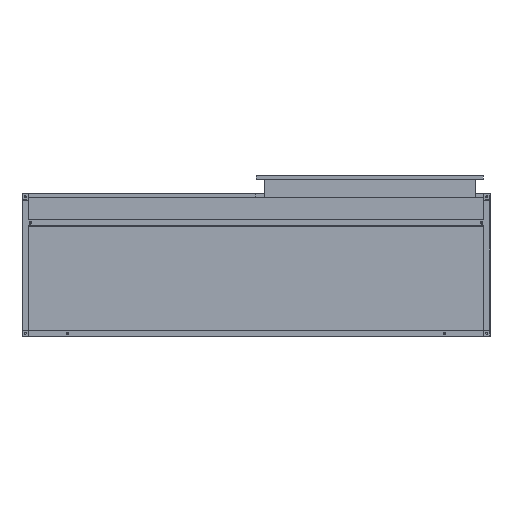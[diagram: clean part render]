
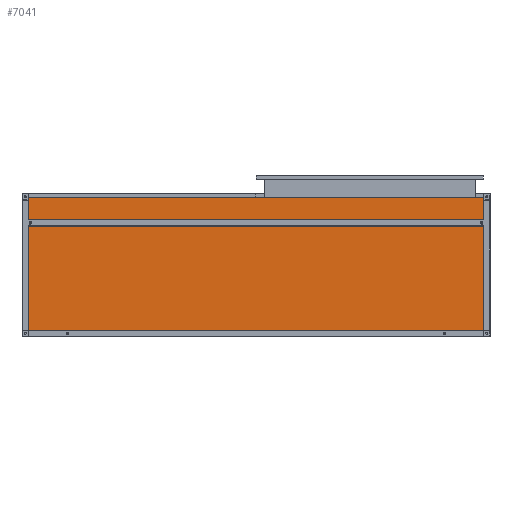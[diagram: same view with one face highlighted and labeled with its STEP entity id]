
A CAD part, front view. The second image highlights one B-rep face of the part: STEP entity #7041.
In plain terms, the highlighted planar face has unit normal (0, -1, 0).
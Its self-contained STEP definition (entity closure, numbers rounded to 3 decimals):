
#59 = VECTOR ( 'NONE', #2637, 1000. ) ;
#121 = AXIS2_PLACEMENT_3D ( 'NONE', #4388, #3057, #6775 ) ;
#827 = EDGE_CURVE ( 'NONE', #2695, #7451, #1943, .T. ) ;
#1011 = VECTOR ( 'NONE', #6693, 1000. ) ;
#1317 = EDGE_LOOP ( 'NONE', ( #4111, #7138, #7442, #5525 ) ) ;
#1402 = CARTESIAN_POINT ( 'NONE',  ( -875., -250., 0. ) ) ;
#1440 = EDGE_CURVE ( 'NONE', #7451, #4720, #5585, .T. ) ;
#1724 = VECTOR ( 'NONE', #4672, 1000. ) ;
#1943 = LINE ( 'NONE', #1402, #1011 ) ;
#1978 = FACE_OUTER_BOUND ( 'NONE', #1317, .T. ) ;
#2637 = DIRECTION ( 'NONE',  ( -1., 0., 0. ) ) ;
#2695 = VERTEX_POINT ( 'NONE', #6950 ) ;
#2986 = VECTOR ( 'NONE', #3122, 1000. ) ;
#3057 = DIRECTION ( 'NONE',  ( 0., 1., 0. ) ) ;
#3122 = DIRECTION ( 'NONE',  ( 1., 0., 0. ) ) ;
#3156 = VERTEX_POINT ( 'NONE', #7453 ) ;
#3213 = LINE ( 'NONE', #5602, #59 ) ;
#3650 = EDGE_CURVE ( 'NONE', #3156, #2695, #3213, .T. ) ;
#3702 = CARTESIAN_POINT ( 'NONE',  ( -875., -250., 535. ) ) ;
#4111 = ORIENTED_EDGE ( 'NONE', *, *, #6390, .F. ) ;
#4388 = CARTESIAN_POINT ( 'NONE',  ( 0., -250., 0. ) ) ;
#4672 = DIRECTION ( 'NONE',  ( 0., 0., -1. ) ) ;
#4720 = VERTEX_POINT ( 'NONE', #6041 ) ;
#5519 = PLANE ( 'NONE',  #121 ) ;
#5525 = ORIENTED_EDGE ( 'NONE', *, *, #3650, .F. ) ;
#5585 = LINE ( 'NONE', #5625, #2986 ) ;
#5602 = CARTESIAN_POINT ( 'NONE',  ( -875., -250., 0. ) ) ;
#5625 = CARTESIAN_POINT ( 'NONE',  ( -875., -250., 535. ) ) ;
#6041 = CARTESIAN_POINT ( 'NONE',  ( 875., -250., 535. ) ) ;
#6390 = EDGE_CURVE ( 'NONE', #4720, #3156, #6471, .T. ) ;
#6471 = LINE ( 'NONE', #7659, #1724 ) ;
#6693 = DIRECTION ( 'NONE',  ( 0., 0., 1. ) ) ;
#6775 = DIRECTION ( 'NONE',  ( 0., 0., 1. ) ) ;
#6950 = CARTESIAN_POINT ( 'NONE',  ( -875., -250., 0. ) ) ;
#7041 = ADVANCED_FACE ( 'NONE', ( #1978 ), #5519, .F. ) ;
#7138 = ORIENTED_EDGE ( 'NONE', *, *, #1440, .F. ) ;
#7442 = ORIENTED_EDGE ( 'NONE', *, *, #827, .F. ) ;
#7451 = VERTEX_POINT ( 'NONE', #3702 ) ;
#7453 = CARTESIAN_POINT ( 'NONE',  ( 875., -250., 0. ) ) ;
#7659 = CARTESIAN_POINT ( 'NONE',  ( 875., -250., 0. ) ) ;
